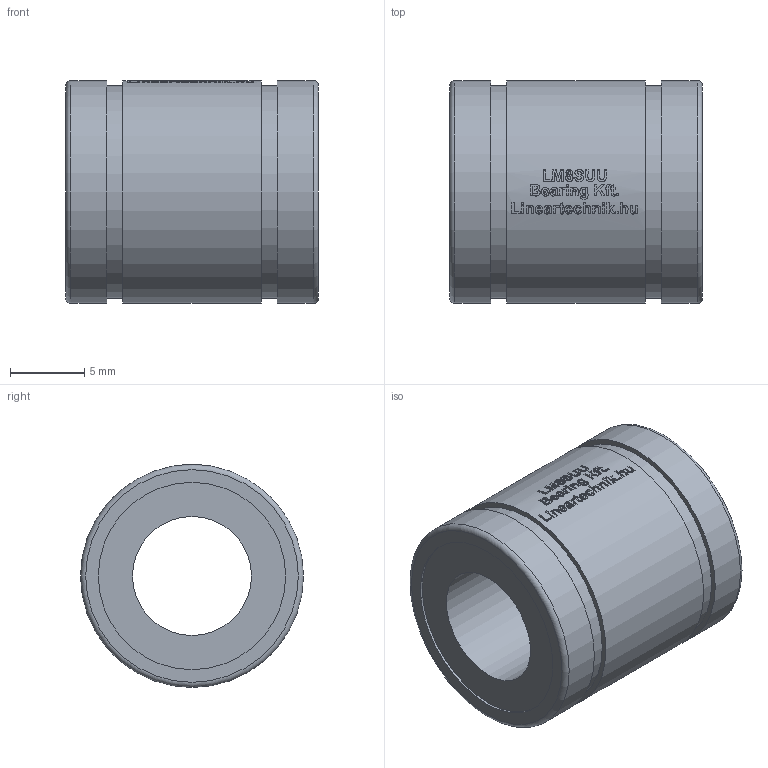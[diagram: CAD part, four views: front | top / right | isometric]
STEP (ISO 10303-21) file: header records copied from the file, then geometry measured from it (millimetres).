
FILE_DESCRIPTION(/* description */ ('Huosing for flange nuts'),/* implementation_level */ '2;1');
FILE_NAME(/* name */ 'LM8SUU',/* time_stamp */ '2019-05-07T14:09:12+02:00',/* author */ ('VĂ©gh MĂˇtĂ©'),/* organization */ ('Bearing Kft'),/* preprocessor_version */ 'ST-DEVELOPER v16.7',/* originating_system */ 'DEX',/* authorisation */ $);
FILE_SCHEMA (('AUTOMOTIVE_DESIGN {1 0 10303 214 3 1 1}'));
Length unit declared in the file: millimetre
Products named in the file (1): LM8SUU
Bounding box: 17 x 15 x 15 mm (x, y, z)
Volume: 2086 mm3; surface area: 1541.4 mm2
Topology: 1 solids, 1 shells, 307 faces, 790 edges, 527 vertices
Faces by surface type: plane 153, bspline 96, cylinder 56, torus 2
Full cylindrical faces by diameter (mm): 8 x1, 12.6 x2, 14.3 x2, 15 x3
Entity records: 13324 total; most frequent: CARTESIAN_POINT 6632, ORIENTED_EDGE 1476, DIRECTION 1102, EDGE_CURVE 738, VERTEX_POINT 500, LINE 398, VECTOR 398, EDGE_LOOP 372
